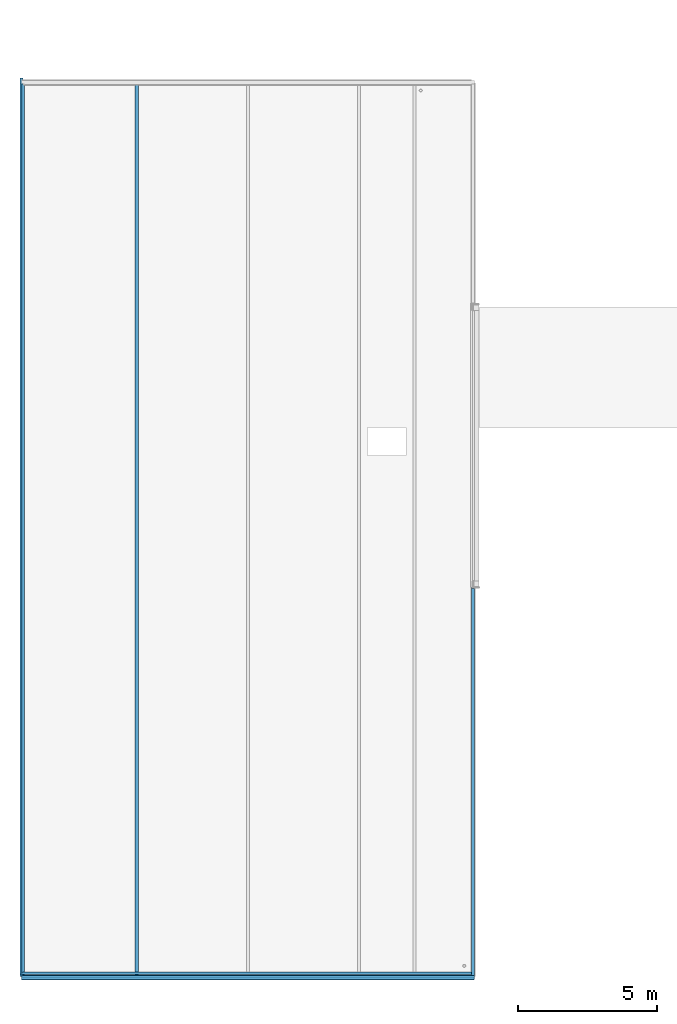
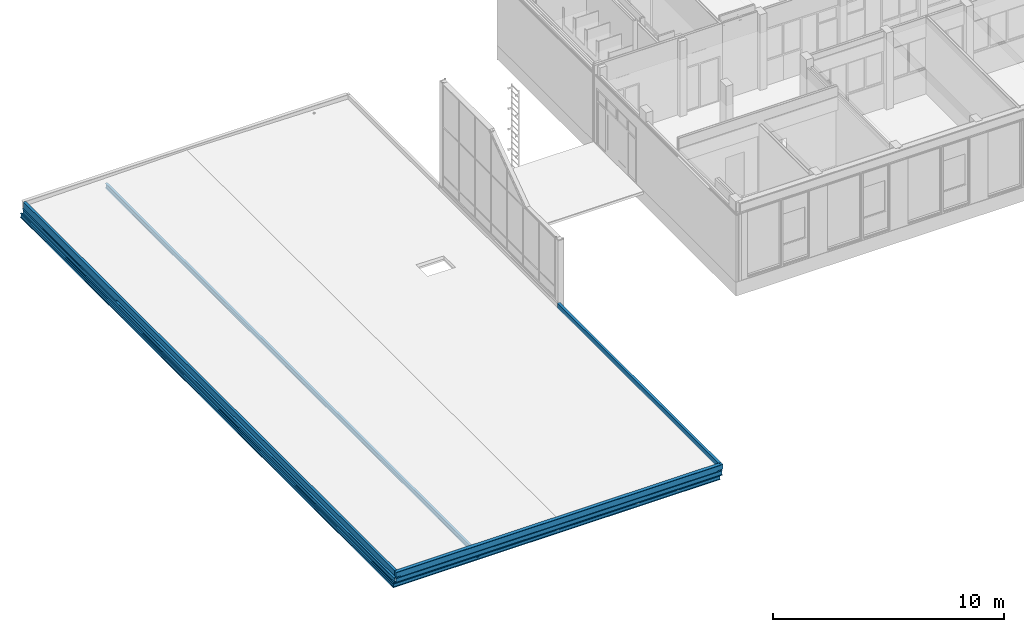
# One storey, part 6 of 54: 9 beams.
"""IFC2X3 building model written with IfcOpenShell, lengths in millimetres."""

import ifcopenshell
import ifcopenshell.guid

model = None  # the IFC model being written
_history = None  # IfcOwnerHistory: only IFC2X3 demands one
_inside = {}  # id of a spatial element -> (the spatial element, [elements in it])
_under = {}  # id of a project, library or spatial element -> (it, [spatial elements below it])
_declared = {}  # id of a project -> (the project, [libraries it declares])
_typed = {}  # id of a type object -> (the type object, [elements of that type])
_made_of = {}  # id of a material, layer set ... -> (it, [elements and type objects made of it])


def new_model(schema):
    """Start an empty IFC model of exactly this schema.

    Asked for "IFC4X3", IfcOpenShell would pick the latest addendum, in which some entities
    have other attributes; the version numbers below select the first issue.
    IFC2X3 requires an IfcOwnerHistory on every rooted entity: one is made here for all.
    """
    global model, _history
    if schema == "IFC4X3":
        model = ifcopenshell.file(schema_version=(4, 3, 0, 0))
    else:
        model = ifcopenshell.file(schema=schema)
    _inside.clear()
    _under.clear()
    _declared.clear()
    _typed.clear()
    _made_of.clear()
    _history = None
    if model.schema == "IFC2X3":
        org = make("IfcOrganization", Name="unknown")
        user = make(
            "IfcPersonAndOrganization",
            ThePerson=make("IfcPerson", FamilyName="unknown"),
            TheOrganization=org,
        )
        app = make(
            "IfcApplication",
            ApplicationDeveloper=org,
            Version="unknown",
            ApplicationFullName="unknown",
            ApplicationIdentifier="unknown",
        )
        _history = make(
            "IfcOwnerHistory",
            OwningUser=user,
            OwningApplication=app,
            ChangeAction="ADDED",
            CreationDate=0,
        )
    return model


def make(cls, **values):
    """One entity of the class cls with the attributes given. An attribute that is None is left unset."""
    return model.create_entity(
        cls, **{name: value for name, value in values.items() if value is not None}
    )


def entity(cls, *values):
    """Any entity or typed value of the class cls, its attributes in the order of the schema. None: left unset."""
    e = model.create_entity(cls)
    for i, value in enumerate(values):
        if value is not None:
            e[i] = value
    return e


def rooted(cls, **values):
    """An entity with a GlobalId (a new one), such as an element, a storey or a relation."""
    return make(cls, GlobalId=ifcopenshell.guid.new(), OwnerHistory=_history, **values)


def si_unit(unit_type, name, prefix=None):
    """IfcSIUnit, for example si_unit("LENGTHUNIT", "METRE", prefix="MILLI")."""
    return make("IfcSIUnit", UnitType=unit_type, Prefix=prefix, Name=name)


def converted_unit(unit_type, name, factor, base, dimensions=None, offset=None):
    """IfcConversionBasedUnit, such as the inch: factor (a typed value) times the base unit."""
    return make(
        "IfcConversionBasedUnit"
        if offset is None
        else "IfcConversionBasedUnitWithOffset",
        ConversionOffset=offset,
        Dimensions=None
        if dimensions is None
        else entity("IfcDimensionalExponents", *dimensions),
        UnitType=unit_type,
        Name=name,
        ConversionFactor=make(
            "IfcMeasureWithUnit", ValueComponent=factor, UnitComponent=base
        ),
    )


def derived_unit(unit_type, elements):
    """IfcDerivedUnit: a product of units, each with its exponent."""
    return make(
        "IfcDerivedUnit",
        Elements=[
            make("IfcDerivedUnitElement", Unit=unit, Exponent=power)
            for unit, power in elements
        ],
        UnitType=unit_type,
    )


def money_unit(currency):
    """IfcMonetaryUnit."""
    return make("IfcMonetaryUnit", Currency=currency)


def assignment(units):
    """IfcUnitAssignment: the units of a project."""
    return None if units is None else make("IfcUnitAssignment", Units=units)


def point(xyz):
    """IfcCartesianPoint."""
    return None if xyz is None else make("IfcCartesianPoint", Coordinates=xyz)


def direction(xyz):
    """IfcDirection."""
    return None if xyz is None else make("IfcDirection", DirectionRatios=xyz)


def frame(location, z_axis=None, x_axis=None):
    """IfcAxis2Placement3D, a coordinate frame: its origin and axes. An axis left out is left unset."""
    return make(
        "IfcAxis2Placement3D",
        Location=point(location),
        Axis=direction(z_axis),
        RefDirection=direction(x_axis),
    )


def origin_with_axes():
    """The frame at (0, 0, 0) with the z axis (0, 0, 1) and the x axis (1, 0, 0) written out."""
    return frame((0.0, 0.0, 0.0), z_axis=(0.0, 0.0, 1.0), x_axis=(1.0, 0.0, 0.0))


def place(relative_to, where):
    """IfcLocalPlacement: puts the frame where relative to a parent placement (None: the world)."""
    return make(
        "IfcLocalPlacement", PlacementRelTo=relative_to, RelativePlacement=where
    )


def context(
    kind, dimensions, precision=None, world=None, true_north=None, identifier=None
):
    """IfcGeometricRepresentationContext, for example the 3D "Model" context."""
    return make(
        "IfcGeometricRepresentationContext",
        ContextIdentifier=identifier,
        ContextType=kind,
        CoordinateSpaceDimension=dimensions,
        Precision=precision,
        WorldCoordinateSystem=world,
        TrueNorth=true_north,
    )


def subcontext(parent, identifier, kind, view, scale=None):
    """IfcGeometricRepresentationSubContext, for example "Body" below "Model"."""
    return make(
        "IfcGeometricRepresentationSubContext",
        ContextIdentifier=identifier,
        ContextType=kind,
        ParentContext=parent,
        TargetScale=scale,
        TargetView=view,
    )


def project(units=None, contexts=None):
    """IfcProject with its units and contexts."""
    return rooted(
        "IfcProject",
        Name="project",
        RepresentationContexts=contexts,
        UnitsInContext=assignment(units),
    )


def spatial(cls, under=None, at=None, **own):
    """A site, building, storey or space (cls), placed at a placement, below another one or the project."""
    s = rooted(cls, ObjectPlacement=at, **own)
    if under is not None:
        _under.setdefault(under.id(), (under, []))[1].append(s)
    return s


def faces_of(points, faces, orient=None, outer=None):
    """IfcFace entities. A face is a list of loops; a loop is a list of indices into points, from 0.

    orient and outer hold one flag for each loop. By default every Orientation is true, the
    first loop of a face is its IfcFaceOuterBound and the others are IfcFaceBound.
    """
    made = []
    for i, loops in enumerate(faces):
        bounds = []
        for j, loop in enumerate(loops):
            is_outer = j == 0 if outer is None else outer[i][j]
            bounds.append(
                make(
                    "IfcFaceOuterBound" if is_outer else "IfcFaceBound",
                    Bound=make("IfcPolyLoop", Polygon=[points[k] for k in loop]),
                    Orientation=True if orient is None else orient[i][j],
                )
            )
        made.append(make("IfcFace", Bounds=bounds))
    return made


def faceted_brep(points, faces, orient=None, outer=None, voids=None):
    """IfcFacetedBrep: a solid bounded by flat faces; with voids (closed shells), ...WithVoids."""
    shared = [point(p) for p in points]
    hull = make("IfcClosedShell", CfsFaces=faces_of(shared, faces, orient, outer))
    if voids is None:
        return make("IfcFacetedBrep", Outer=hull)
    return make(
        "IfcFacetedBrepWithVoids",
        Outer=hull,
        Voids=[
            make(cls, CfsFaces=faces_of(shared, fs, o, b)) for cls, fs, o, b in voids
        ],
    )


def shape(context_of_items, identifier, shape_type, items):
    """IfcShapeRepresentation: the items that make up one representation, for example the "Body"."""
    return make(
        "IfcShapeRepresentation",
        ContextOfItems=context_of_items,
        RepresentationIdentifier=identifier,
        RepresentationType=shape_type,
        Items=items,
    )


def material(Name=None, Category=None):
    """IfcMaterial."""
    return make("IfcMaterial", Name=Name, Category=Category)


def made_of(thing, what):
    """Note that an element or type object is made of a material, layer set ...; save() writes the relation."""
    if what is not None:
        _made_of.setdefault(what.id(), (what, []))[1].append(thing)
    return thing


def type_object(cls, material=None, **own):
    """A type object (cls), such as IfcWallType, which elements share."""
    return made_of(rooted(cls, **own), material)


def element(
    cls,
    number,
    at=None,
    inside=None,
    cuts=None,
    type_object=None,
    material=None,
    context=None,
    identifier="Body",
    shape_type=None,
    held_by="IfcProductDefinitionShape",
    body=None,
    shapes=None,
    **own,
):
    """One element of the class cls, such as IfcWall. Its Tag is "e" and its number.

    at: its placement. inside: the storey or other place that contains it. cuts: it is an
    opening in that element (IfcRelVoidsElement). A single representation is given by context,
    identifier, shape_type and body (its items); several are given by shapes. held_by: the class
    of the entity that holds the representations. save() writes the other relations.
    """
    e = rooted(cls, Tag="e%d" % number, ObjectPlacement=at, **own)
    if body is not None:
        shapes = [shape(context, identifier, shape_type, body)]
    if shapes is not None:
        e.Representation = make(held_by, Representations=shapes)
    if inside is not None:
        _inside.setdefault(inside.id(), (inside, []))[1].append(e)
    if cuts is not None:
        rooted(
            "IfcRelVoidsElement", RelatingBuildingElement=cuts, RelatedOpeningElement=e
        )
    if type_object is not None:
        _typed.setdefault(type_object.id(), (type_object, []))[1].append(e)
    return made_of(e, material)


def aggregate(whole, parts):
    """IfcRelAggregates: a whole, such as a stair, and the parts it consists of."""
    return rooted("IfcRelAggregates", RelatingObject=whole, RelatedObjects=parts)


def save(model, path):
    """Write the relations noted so far, then the file.

    IfcRelAggregates (storeys below a building ...), IfcRelContainedInSpatialStructure (elements
    in a storey), IfcRelDefinesByType, IfcRelAssociatesMaterial and IfcRelDeclares: one each for
    every whole, place, type object, material and project.
    """
    for whole, parts in _under.values():
        aggregate(whole, parts)
    for where, things in _inside.values():
        rooted(
            "IfcRelContainedInSpatialStructure",
            RelatedElements=things,
            RelatingStructure=where,
        )
    for kind, things in _typed.values():
        rooted("IfcRelDefinesByType", RelatedObjects=things, RelatingType=kind)
    for what, things in _made_of.values():
        rooted("IfcRelAssociatesMaterial", RelatedObjects=things, RelatingMaterial=what)
    for by, libraries in _declared.values():
        rooted("IfcRelDeclares", RelatingContext=by, RelatedDefinitions=libraries)
    model.write(path)


model = new_model("IFC2X3")

# Units and contexts
model_context = context("Model", 3, precision=0.01, world=origin_with_axes(), true_north=direction((0.0, 1.0)))
body_context = subcontext(model_context, "Body", "Model", "MODEL_VIEW")
ifc_project = project(units=[si_unit("LENGTHUNIT", "METRE", prefix="MILLI"), si_unit("AREAUNIT", "SQUARE_METRE"), si_unit("VOLUMEUNIT", "CUBIC_METRE"), converted_unit("PLANEANGLEUNIT", "DEGREE", entity("IfcPlaneAngleMeasure", 0.0174532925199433), si_unit("PLANEANGLEUNIT", "RADIAN"), dimensions=[0, 0, 0, 0, 0, 0, 0]), money_unit("EUR"), converted_unit("TIMEUNIT", "Year", entity("IfcTimeMeasure", 31557600.0), si_unit("TIMEUNIT", "SECOND"), dimensions=[0, 0, 1, 0, 0, 0, 0]), si_unit("MASSUNIT", "GRAM", prefix="KILO"), si_unit("THERMODYNAMICTEMPERATUREUNIT", "DEGREE_CELSIUS"), si_unit("LUMINOUSINTENSITYUNIT", "LUMEN"), si_unit("ENERGYUNIT", "JOULE", prefix="MEGA"), derived_unit("THERMALCONDUCTANCEUNIT", [(si_unit("POWERUNIT", "WATT"), 1), (si_unit("LENGTHUNIT", "METRE"), -1), (si_unit("THERMODYNAMICTEMPERATUREUNIT", "KELVIN"), -1)]), derived_unit("SPECIFICHEATCAPACITYUNIT", [(si_unit("ENERGYUNIT", "JOULE"), 1), (si_unit("MASSUNIT", "GRAM", prefix="KILO"), -1), (si_unit("THERMODYNAMICTEMPERATUREUNIT", "KELVIN"), -1)]), derived_unit("MASSDENSITYUNIT", [(si_unit("MASSUNIT", "GRAM", prefix="KILO"), 1), (si_unit("VOLUMEUNIT", "CUBIC_METRE"), -1)])], contexts=[model_context])

# Site, building, storey
site_placement = place(None, origin_with_axes())
site = spatial("IfcSite", under=ifc_project, at=site_placement, Name="<site naam>", CompositionType="ELEMENT")
building_placement = place(site_placement, origin_with_axes())
building = spatial("IfcBuilding", under=site, at=building_placement, Name="<Naam gebouw>", CompositionType="ELEMENT")
storey_placement = place(building_placement, frame((0.0, 0.0, 8500.0), z_axis=(0.0, 0.0, 1.0), x_axis=(1.0, 0.0, 0.0)))
storey = spatial("IfcBuildingStorey", under=building, at=storey_placement, Name="02 2e verdieping", CompositionType="ELEMENT", Elevation=8500.0)

# Beams
ifc_material_1 = material(Name="staal C")
beam_type_1 = type_object("IfcBeamType", Name="Profiel IPN algemeen 113 x 260", PredefinedType="BEAM")
beam_1_placement = place(storey_placement, frame((-12145.00097039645, -12082.49008809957, -79.99999923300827), z_axis=(0.0, 0.0, 1.0), x_axis=(1.0, 0.0, 0.0)))
element("IfcBeam", 1, at=beam_1_placement, inside=storey, type_object=beam_type_1, material=ifc_material_1, Name="28_Balk_Profiel", ObjectType="BEAM", context=body_context, shape_type="Brep", body=[
    faceted_brep([(-56.5003578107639, 0.0, 0.0), (-56.5003578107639, 32164.99008809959, 0.0), (-56.50031822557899, 32164.99008809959, -14.09999999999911), (-56.50031822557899, 0.0, -14.09999999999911), (56.5003578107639, 0.0, 0.0), (56.5003578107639, 32164.99008809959, 0.0), (56.50031822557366, 32164.99008809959, -14.09999999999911), (4.699999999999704, 32164.99008809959, -14.09999999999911), (4.699999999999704, 32164.99008809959, -245.9003093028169), (56.50031822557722, 32164.99008809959, -245.9003093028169), (56.5003578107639, 32164.99008809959, -260.0003415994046), (-56.5003578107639, 32164.99008809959, -260.0003415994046), (-56.50031822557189, 32164.99008809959, -245.9003093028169), (-4.699999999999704, 32164.99008809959, -245.9003093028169), (-4.699999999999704, 32164.99008809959, -14.09999999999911), (-4.699999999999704, 0.0, -14.09999999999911), (-4.699999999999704, 0.0, -245.9003093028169), (-56.50031822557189, 0.0, -245.9003093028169), (-56.5003578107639, 0.0, -260.0003415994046), (56.5003578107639, 0.0, -260.0003415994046), (56.50031822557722, 0.0, -245.9003093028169), (4.699999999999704, 0.0, -245.9003093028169), (4.699999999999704, 0.0, -14.09999999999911), (56.50031822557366, 0.0, -14.09999999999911)], [[[0, 1, 2, 3]], [[4, 5, 1, 0]], [[2, 1, 5, 6, 7, 8, 9, 10, 11, 12, 13, 14]], [[3, 2, 14, 15]], [[4, 0, 3, 15, 16, 17, 18, 19, 20, 21, 22, 23]], [[23, 6, 5, 4]], [[22, 7, 6, 23]], [[21, 8, 7, 22]], [[20, 9, 8, 21]], [[19, 10, 9, 20]], [[18, 11, 10, 19]], [[17, 12, 11, 18]], [[16, 13, 12, 17]], [[15, 14, 13, 16]]]),
])
beam_2_placement = place(storey_placement, frame((-7999.999803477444, -12082.49008809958, -179.9999992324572), z_axis=(0.0, 0.0, 1.0), x_axis=(1.0, 0.0, 0.0)))
element("IfcBeam", 2, at=beam_2_placement, inside=storey, type_object=beam_type_1, material=ifc_material_1, Name="28_Balk_Profiel", ObjectType="BEAM", context=body_context, shape_type="Brep", body=[
    faceted_brep([(-56.50019946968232, 0.0, -14.09999999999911), (-56.50023905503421, 0.0, 0.0), (-56.50023905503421, 32164.99008809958, 0.0), (-56.50019946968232, 32164.99008809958, -14.09999999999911), (56.50019946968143, 0.0, -14.09999999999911), (56.50023905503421, 0.0, 0.0), (-4.699999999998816, 0.0, -14.09999999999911), (-4.699999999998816, 0.0, -245.9002124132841), (-56.50019946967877, 0.0, -245.9002124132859), (-56.50023905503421, 0.0, -260.0002447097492), (56.50023905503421, 0.0, -260.0002447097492), (56.50019946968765, 0.0, -245.9002124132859), (4.699999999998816, 0.0, -245.9002124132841), (4.699999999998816, 0.0, -14.09999999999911), (56.50023905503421, 32164.99008809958, 0.0), (-4.699999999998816, 32164.99008809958, -14.09999999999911), (56.50019946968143, 32164.99008809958, -14.09999999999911), (4.699999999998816, 32164.99008809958, -14.09999999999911), (4.699999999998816, 32164.99008809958, -245.9002124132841), (56.50019946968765, 32164.99008809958, -245.9002124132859), (56.50023905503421, 32164.99008809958, -260.0002447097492), (-56.50023905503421, 32164.99008809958, -260.0002447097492), (-56.50019946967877, 32164.99008809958, -245.9002124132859), (-4.699999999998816, 32164.99008809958, -245.9002124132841)], [[[0, 1, 2, 3]], [[4, 5, 1, 0, 6, 7, 8, 9, 10, 11, 12, 13]], [[1, 5, 14, 2]], [[15, 3, 2, 14, 16, 17, 18, 19, 20, 21, 22, 23]], [[6, 0, 3, 15]], [[5, 4, 16, 14]], [[7, 6, 15, 23]], [[8, 7, 23, 22]], [[9, 8, 22, 21]], [[10, 9, 21, 20]], [[11, 10, 20, 19]], [[12, 11, 19, 18]], [[13, 12, 18, 17]], [[4, 13, 17, 16]]]),
])
beam_3_placement = place(storey_placement, frame((-12145.00097039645, -12147.03280825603, -39.99999923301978), z_axis=(0.0, 0.0, 1.0), x_axis=(0.0, -1.0, 0.0)))
element("IfcBeam", 3, at=beam_3_placement, inside=storey, type_object=beam_type_1, material=ifc_material_1, Name="28_Balk_Profiel", ObjectType="BEAM", context=body_context, shape_type="Brep", body=[
    faceted_brep([(-56.50035804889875, 0.0, 0.0), (-56.50035804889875, 16290.00105463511, 0.0), (-56.50031846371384, 16290.00105463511, -14.09999999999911), (-56.50031846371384, 0.0, -14.09999999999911), (56.50035804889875, 0.0, 0.0), (56.50035804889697, 16290.00105463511, 0.0), (56.50031846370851, 16290.00105463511, -14.09999999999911), (4.699999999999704, 16290.00105463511, -14.09999999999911), (4.699999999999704, 16290.00105463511, -245.9003093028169), (56.50031846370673, 16290.00105463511, -245.9003093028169), (56.50035804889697, 16290.00105463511, -260.0003415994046), (-56.50035804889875, 16290.00105463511, -260.0003415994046), (-56.50031846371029, 16290.00105463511, -245.9003093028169), (-4.700000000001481, 16290.00105463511, -245.9003093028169), (-4.700000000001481, 16290.00105463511, -14.09999999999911), (-4.699999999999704, 0.0, -14.09999999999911), (-4.699999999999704, 0.0, -245.9003093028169), (-56.50031846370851, 0.0, -245.9003093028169), (-56.50035804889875, 0.0, -260.0003415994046), (56.50035804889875, 0.0, -260.0003415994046), (56.50031846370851, 0.0, -245.9003093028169), (4.699999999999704, 0.0, -245.9003093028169), (4.699999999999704, 0.0, -14.09999999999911), (56.50031846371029, 0.0, -14.09999999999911)], [[[0, 1, 2, 3]], [[4, 5, 1, 0]], [[2, 1, 5, 6, 7, 8, 9, 10, 11, 12, 13, 14]], [[3, 2, 14, 15]], [[4, 0, 3, 15, 16, 17, 18, 19, 20, 21, 22, 23]], [[23, 6, 5, 4]], [[22, 7, 6, 23]], [[21, 8, 7, 22]], [[20, 9, 8, 21]], [[19, 10, 9, 20]], [[18, 11, 10, 19]], [[17, 12, 11, 18]], [[16, 13, 12, 17]], [[15, 14, 13, 16]]]),
])
beam_type_2 = type_object("IfcBeamType", Name="Profiel IPN algemeen 100 x 200", PredefinedType="BEAM")
beam_4_placement = place(storey_placement, frame((-12145.00097039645, -11967.52986715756, -440.0000433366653), z_axis=(0.0, 0.0, 1.0), x_axis=(0.0, -1.0, 0.0)))
element("IfcBeam", 4, at=beam_4_placement, inside=storey, type_object=beam_type_2, material=ifc_material_1, Name="28_Balk_Profiel", ObjectType="BEAM", context=body_context, shape_type="Brep", body=[
    faceted_brep([(2.800034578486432, 4158.525044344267, -191.5003203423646), (2.800034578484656, 213.5758412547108, -191.5003203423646), (39.97013036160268, 213.5758410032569, -191.5003203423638), (39.97013036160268, 261.0758411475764, -191.5003203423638), (47.97013284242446, 261.0758410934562, -191.5003203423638), (47.97013284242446, 161.0758409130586, -191.5003203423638), (39.97013036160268, 161.0758408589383, -191.5003203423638), (39.97013036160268, 208.5758410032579, -191.5003203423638), (2.800034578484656, 208.5758407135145, -191.5003203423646), (2.800034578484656, -2.800034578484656, -191.5003203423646), (50.00027387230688, -50.00027387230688, -191.5003203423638), (50.0002738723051, 16290.00105463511, -191.5003203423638), (2.800034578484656, 16290.00105463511, -191.5003203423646), (2.800034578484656, 16097.54543865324, -191.5003203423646), (40.97012794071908, 16097.54543839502, -191.5003203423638), (40.97012794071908, 16145.04543853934, -191.5003203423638), (48.97013042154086, 16145.04543848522, -191.5003203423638), (48.97013042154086, 16045.04543830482, -191.5003203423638), (40.97012794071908, 16045.0454382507, -191.5003203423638), (40.97012794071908, 16092.54543839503, -191.5003203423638), (2.800034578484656, 16092.54543811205, -191.5003203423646), (2.800034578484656, 12147.50097064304, -191.5003203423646), (40.97012794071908, 12147.50097038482, -191.5003203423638), (40.97012794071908, 12195.00097052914, -191.5003203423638), (48.97013042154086, 12195.00097047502, -191.5003203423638), (48.97013042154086, 12095.00097029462, -191.5003203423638), (40.97012794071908, 12095.0009702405, -191.5003203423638), (40.97012794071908, 12142.50097038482, -191.5003203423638), (2.800034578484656, 12142.50097010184, -191.5003203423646), (2.800034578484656, 8147.500970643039, -191.5003203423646), (40.97012794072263, 8147.500970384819, -191.5003203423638), (40.97012794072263, 8195.000970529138, -191.5003203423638), (48.97013042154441, 8195.000970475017, -191.5003203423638), (48.97013042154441, 8095.000970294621, -191.5003203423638), (40.97012794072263, 8095.0009702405, -191.5003203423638), (40.97012794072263, 8142.50097038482, -191.5003203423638), (2.800034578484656, 8142.500970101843, -191.5003203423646), (2.800034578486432, 4163.525044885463, -191.5003203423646), (40.97547550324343, 4163.525044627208, -191.5003203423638), (40.97547550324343, 4211.025044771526, -191.5003203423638), (48.97547798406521, 4211.025044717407, -191.5003203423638), (48.97547798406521, 4111.025044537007, -191.5003203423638), (40.97547550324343, 4111.025044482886, -191.5003203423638), (40.97547550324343, 4158.525044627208, -191.5003203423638), (2.800034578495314, 208.5758410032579, -20.00020268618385), (2.800034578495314, 213.5758410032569, -20.00020268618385), (2.80003457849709, 4158.525044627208, -20.00020268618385), (2.80003457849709, 4163.525044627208, -20.00020268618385), (2.800034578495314, 8142.50097038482, -20.00020268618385), (2.800034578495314, 8147.500970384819, -20.00020268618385), (2.800034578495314, 12142.50097038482, -20.00020268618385), (2.800034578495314, 12147.50097038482, -20.00020268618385), (2.800034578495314, 16092.54543839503, -20.00020268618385), (2.800034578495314, 16097.54543839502, -20.00020268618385), (2.800034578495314, 16290.00105463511, -8.500157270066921), (2.800034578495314, -2.800034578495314, -8.500157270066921), (-2.80003457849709, 213.5758410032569, -20.00020268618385), (-2.800034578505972, 213.5758412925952, -191.5003203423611), (-40.02986558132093, 213.5758410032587, -191.5003203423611), (-40.02986558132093, 213.5758410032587, -200.0006782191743), (39.97013036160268, 213.5758410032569, -200.0006782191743), (39.97013036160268, 261.0758411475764, -200.0006782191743), (47.97013284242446, 261.0758410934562, -200.0006782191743), (47.97013284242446, 161.0758409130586, -200.0006782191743), (39.97013036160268, 161.0758408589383, -200.0006782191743), (39.97013036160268, 208.5758410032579, -200.0006782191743), (-40.02986558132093, 208.5758410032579, -200.0006782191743), (-40.02986558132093, 208.5758410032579, -191.5003203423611), (-2.800034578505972, 208.5758407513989, -191.5003203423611), (-2.80003457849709, 208.5758410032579, -20.00020268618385), (50.00027387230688, -50.00027387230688, -8.500157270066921), (50.00044102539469, -50.00044102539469, 0.0), (-50.00044102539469, 50.00044102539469, 0.0), (-50.0002738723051, 50.0002738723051, -8.500157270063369), (-2.800034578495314, 2.800034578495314, -8.500157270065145), (-2.800034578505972, 2.800034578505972, -191.5003203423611), (-50.0002738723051, 50.0002738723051, -191.5003203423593), (-50.00044102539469, 50.00044102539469, -200.0006782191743), (50.00044102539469, -50.00044102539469, -200.0006782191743), (50.00044102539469, 16290.00105463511, -200.0006782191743), (-2.80003457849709, 16290.00105463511, -8.500157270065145), (-50.00027387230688, 16290.00105463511, -8.500157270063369), (-50.00044102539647, 16290.00105463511, 0.0), (50.00044102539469, 16290.00105463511, 0.0), (50.0002738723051, 16290.00105463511, -8.500157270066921), (-50.00044102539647, 16290.00105463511, -200.0006782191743), (-50.00027387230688, 16290.00105463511, -191.5003203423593), (-2.800034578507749, 16290.00105463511, -191.5003203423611), (-2.80003457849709, 16097.54543839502, -20.00020268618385), (-2.800034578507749, 16097.54543869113, -191.5003203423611), (-39.02986800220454, 16097.54543839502, -191.5003203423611), (-39.02986800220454, 16097.54543839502, -200.0006782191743), (40.97012794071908, 16097.54543839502, -200.0006782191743), (40.97012794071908, 16145.04543853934, -200.0006782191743), (48.97013042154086, 16145.04543848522, -200.0006782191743), (48.97013042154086, 16045.04543830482, -200.0006782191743), (40.97012794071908, 16045.0454382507, -200.0006782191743), (40.97012794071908, 16092.54543839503, -200.0006782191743), (-39.02986800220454, 16092.54543839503, -200.0006782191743), (-39.02986800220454, 16092.54543839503, -191.5003203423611), (-2.800034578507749, 16092.54543814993, -191.5003203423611), (-2.80003457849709, 16092.54543839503, -20.00020268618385), (-2.80003457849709, 12147.50097038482, -20.00020268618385), (-2.800034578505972, 12147.50097068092, -191.5003203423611), (-39.02986800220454, 12147.50097038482, -191.5003203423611), (-39.02986800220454, 12147.50097038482, -200.0006782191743), (40.97012794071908, 12147.50097038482, -200.0006782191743), (40.97012794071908, 12195.00097052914, -200.0006782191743), (48.97013042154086, 12195.00097047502, -200.0006782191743), (48.97013042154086, 12095.00097029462, -200.0006782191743), (40.97012794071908, 12095.0009702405, -200.0006782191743), (40.97012794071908, 12142.50097038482, -200.0006782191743), (-39.02986800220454, 12142.50097038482, -200.0006782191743), (-39.02986800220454, 12142.50097038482, -191.5003203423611), (-2.800034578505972, 12142.50097013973, -191.5003203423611), (-2.80003457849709, 12142.50097038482, -20.00020268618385), (-2.80003457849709, 8147.500970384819, -20.00020268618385), (-2.800034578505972, 8147.500970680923, -191.5003203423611), (-39.02986800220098, 8147.500970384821, -191.5003203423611), (-39.02986800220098, 8147.500970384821, -200.0006782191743), (40.97012794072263, 8147.500970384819, -200.0006782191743), (40.97012794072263, 8195.000970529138, -200.0006782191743), (48.97013042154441, 8195.000970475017, -200.0006782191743), (48.97013042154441, 8095.000970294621, -200.0006782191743), (40.97012794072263, 8095.0009702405, -200.0006782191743), (40.97012794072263, 8142.50097038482, -200.0006782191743), (-39.02986800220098, 8142.50097038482, -200.0006782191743), (-39.02986800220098, 8142.50097038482, -191.5003203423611), (-2.800034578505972, 8142.500970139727, -191.5003203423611), (-2.80003457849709, 8142.50097038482, -20.00020268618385), (-2.800034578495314, 4163.525044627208, -20.00020268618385), (-2.800034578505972, 4163.525044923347, -191.5003203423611), (-39.02452043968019, 4163.525044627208, -191.5003203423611), (-39.02452043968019, 4163.525044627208, -200.0006782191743), (40.97547550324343, 4163.525044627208, -200.0006782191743), (40.97547550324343, 4211.025044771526, -200.0006782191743), (48.97547798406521, 4211.025044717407, -200.0006782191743), (48.97547798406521, 4111.025044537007, -200.0006782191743), (40.97547550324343, 4111.025044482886, -200.0006782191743), (40.97547550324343, 4158.525044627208, -200.0006782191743), (-39.02452043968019, 4158.525044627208, -200.0006782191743), (-39.02452043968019, 4158.525044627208, -191.5003203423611), (-2.800034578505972, 4158.525044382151, -191.5003203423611), (-2.800034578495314, 4158.525044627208, -20.00020268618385), (-40.02986558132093, 161.0758408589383, -191.5003203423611), (-48.02986806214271, 161.0758409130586, -191.5003203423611), (-48.02986806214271, 261.0758410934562, -191.5003203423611), (-40.02986558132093, 261.0758411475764, -191.5003203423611), (-39.02452043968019, 4111.025044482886, -191.5003203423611), (-47.02452292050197, 4111.025044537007, -191.5003203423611), (-47.02452292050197, 4211.025044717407, -191.5003203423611), (-39.02452043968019, 4211.025044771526, -191.5003203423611), (-39.02986800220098, 8095.0009702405, -191.5003203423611), (-47.02987048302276, 8095.000970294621, -191.5003203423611), (-47.02987048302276, 8195.000970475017, -191.5003203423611), (-39.02986800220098, 8195.000970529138, -191.5003203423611), (-39.02986800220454, 12095.0009702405, -191.5003203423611), (-47.02987048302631, 12095.00097029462, -191.5003203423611), (-47.02987048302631, 12195.00097047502, -191.5003203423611), (-39.02986800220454, 12195.00097052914, -191.5003203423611), (-39.02986800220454, 16045.0454382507, -191.5003203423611), (-47.02987048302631, 16045.04543830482, -191.5003203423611), (-47.02987048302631, 16145.04543848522, -191.5003203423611), (-39.02986800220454, 16145.04543853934, -191.5003203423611), (-40.02986558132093, 261.0758411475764, -200.0006782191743), (-39.02986800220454, 16145.04543853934, -200.0006782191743), (-47.02987048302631, 16145.04543848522, -200.0006782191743), (-47.02987048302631, 16045.04543830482, -200.0006782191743), (-39.02986800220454, 16045.0454382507, -200.0006782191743), (-39.02986800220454, 12195.00097052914, -200.0006782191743), (-47.02987048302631, 12195.00097047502, -200.0006782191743), (-47.02987048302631, 12095.00097029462, -200.0006782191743), (-39.02986800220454, 12095.0009702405, -200.0006782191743), (-39.02986800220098, 8195.000970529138, -200.0006782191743), (-47.02987048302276, 8195.000970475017, -200.0006782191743), (-47.02987048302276, 8095.000970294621, -200.0006782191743), (-39.02986800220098, 8095.0009702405, -200.0006782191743), (-39.02452043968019, 4211.025044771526, -200.0006782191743), (-47.02452292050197, 4211.025044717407, -200.0006782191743), (-47.02452292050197, 4111.025044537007, -200.0006782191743), (-39.02452043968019, 4111.025044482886, -200.0006782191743), (-48.02986806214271, 261.0758410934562, -200.0006782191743), (-48.02986806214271, 161.0758409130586, -200.0006782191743), (-40.02986558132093, 161.0758408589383, -200.0006782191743)], [[[0, 1, 2, 3, 4, 5, 6, 7, 8, 9, 10, 11, 12, 13, 14, 15, 16, 17, 18, 19, 20, 21, 22, 23, 24, 25, 26, 27, 28, 29, 30, 31, 32, 33, 34, 35, 36, 37, 38, 39, 40, 41, 42, 43]], [[44, 45, 1, 0, 46, 47, 37, 36, 48, 49, 29, 28, 50, 51, 21, 20, 52, 53, 13, 12, 54, 55, 9, 8]], [[56, 57, 58, 59, 60, 2, 1, 45]], [[61, 3, 2, 60]], [[62, 4, 3, 61]], [[63, 5, 4, 62]], [[64, 6, 5, 63]], [[65, 7, 6, 64]], [[66, 67, 68, 69, 44, 8, 7, 65]], [[70, 71, 72, 73, 74, 75, 76, 77, 78, 10, 9, 55]], [[10, 78, 79, 11]], [[80, 81, 82, 83, 84, 54, 12, 11, 79, 85, 86, 87]], [[88, 89, 90, 91, 92, 14, 13, 53]], [[93, 15, 14, 92]], [[94, 16, 15, 93]], [[95, 17, 16, 94]], [[96, 18, 17, 95]], [[97, 19, 18, 96]], [[98, 99, 100, 101, 52, 20, 19, 97]], [[102, 103, 104, 105, 106, 22, 21, 51]], [[107, 23, 22, 106]], [[108, 24, 23, 107]], [[109, 25, 24, 108]], [[110, 26, 25, 109]], [[111, 27, 26, 110]], [[112, 113, 114, 115, 50, 28, 27, 111]], [[116, 117, 118, 119, 120, 30, 29, 49]], [[121, 31, 30, 120]], [[122, 32, 31, 121]], [[123, 33, 32, 122]], [[124, 34, 33, 123]], [[125, 35, 34, 124]], [[126, 127, 128, 129, 48, 36, 35, 125]], [[130, 131, 132, 133, 134, 38, 37, 47]], [[135, 39, 38, 134]], [[136, 40, 39, 135]], [[137, 41, 40, 136]], [[138, 42, 41, 137]], [[139, 43, 42, 138]], [[140, 141, 142, 143, 46, 0, 43, 139]], [[44, 69, 56, 45]], [[46, 143, 130, 47]], [[48, 129, 116, 49]], [[50, 115, 102, 51]], [[52, 101, 88, 53]], [[70, 55, 54, 84]], [[56, 69, 68, 75, 74, 80, 87, 89, 88, 101, 100, 103, 102, 115, 114, 117, 116, 129, 128, 131, 130, 143, 142, 57]], [[67, 144, 145, 146, 147, 58, 57, 142, 141, 148, 149, 150, 151, 132, 131, 128, 127, 152, 153, 154, 155, 118, 117, 114, 113, 156, 157, 158, 159, 104, 103, 100, 99, 160, 161, 162, 163, 90, 89, 87, 86, 76, 75, 68]], [[59, 58, 147, 164]], [[78, 77, 85, 79], [92, 91, 165, 166, 167, 168, 98, 97, 96, 95, 94, 93], [106, 105, 169, 170, 171, 172, 112, 111, 110, 109, 108, 107], [120, 119, 173, 174, 175, 176, 126, 125, 124, 123, 122, 121], [134, 133, 177, 178, 179, 180, 140, 139, 138, 137, 136, 135], [60, 59, 164, 181, 182, 183, 66, 65, 64, 63, 62, 61]], [[183, 144, 67, 66]], [[71, 70, 84, 83]], [[72, 71, 83, 82]], [[73, 72, 82, 81]], [[74, 73, 81, 80]], [[77, 76, 86, 85]], [[91, 90, 163, 165]], [[168, 160, 99, 98]], [[105, 104, 159, 169]], [[172, 156, 113, 112]], [[119, 118, 155, 173]], [[176, 152, 127, 126]], [[133, 132, 151, 177]], [[180, 148, 141, 140]], [[182, 145, 144, 183]], [[181, 146, 145, 182]], [[164, 147, 146, 181]], [[179, 149, 148, 180]], [[178, 150, 149, 179]], [[177, 151, 150, 178]], [[175, 153, 152, 176]], [[174, 154, 153, 175]], [[173, 155, 154, 174]], [[171, 157, 156, 172]], [[170, 158, 157, 171]], [[169, 159, 158, 170]], [[167, 161, 160, 168]], [[166, 162, 161, 167]], [[165, 163, 162, 166]]]),
])
beam_5_placement = place(storey_placement, frame((-12145.00097039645, -11967.52986715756, -440.0000433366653), z_axis=(0.0, 0.0, 1.0), x_axis=(1.0, 0.0, 0.0)))
element("IfcBeam", 5, at=beam_5_placement, inside=storey, type_object=beam_type_2, material=ifc_material_1, Name="28_Balk_Profiel", ObjectType="BEAM", context=body_context, shape_type="Brep", body=[
    faceted_brep([(-50.00044102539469, -50.00044102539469, 0.0), (-50.00044102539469, 32232.52986715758, 0.0), (-50.0002738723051, 32232.52986715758, -8.500157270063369), (-50.0002738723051, -50.0002738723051, -8.500157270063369), (50.00044102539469, 50.00044102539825, 0.0), (50.00044102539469, 32232.52986715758, 0.0), (50.00027387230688, 32232.52986715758, -8.500157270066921), (2.800034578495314, 32232.52986715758, -8.500157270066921), (2.800034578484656, 32232.52986715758, -191.5003203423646), (50.00027387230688, 32232.52986715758, -191.5003203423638), (50.00044102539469, 32232.52986715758, -200.0006782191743), (-50.00044102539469, 32232.52986715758, -200.0006782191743), (-50.0002738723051, 32232.52986715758, -191.5003203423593), (-2.800034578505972, 32232.52986715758, -191.5003203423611), (-2.800034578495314, 32232.52986715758, -8.500157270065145), (-2.800034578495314, -2.800034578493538, -8.500157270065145), (-2.800034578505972, -2.800034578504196, -191.5003203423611), (-50.0002738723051, -50.0002738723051, -191.5003203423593), (-50.00044102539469, -50.00044102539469, -200.0006782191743), (50.00044102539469, 50.00044102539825, -200.0006782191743), (50.00027387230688, 50.00027387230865, -191.5003203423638), (2.800034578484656, 2.800034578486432, -191.5003203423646), (2.800034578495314, 2.800034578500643, -8.500157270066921), (50.00027387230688, 50.00027387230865, -8.500157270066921)], [[[0, 1, 2, 3]], [[4, 5, 1, 0]], [[2, 1, 5, 6, 7, 8, 9, 10, 11, 12, 13, 14]], [[3, 2, 14, 15]], [[4, 0, 3, 15, 16, 17, 18, 19, 20, 21, 22, 23]], [[23, 6, 5, 4]], [[22, 7, 6, 23]], [[21, 8, 7, 22]], [[20, 9, 8, 21]], [[19, 10, 9, 20]], [[18, 11, 10, 19]], [[17, 12, 11, 18]], [[16, 13, 12, 17]], [[15, 14, 13, 16]]]),
])
ifc_material_2 = material(Name="ALG - BUITENAFWERKING")
beam_type_3 = type_object("IfcBeamType", Name="ALG - BUITENAFWERKING 175 x 18", PredefinedType="BEAM")
beam_6_placement = place(storey_placement, frame((-12034.99362748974, -12031.77429586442, 262.0700278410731), z_axis=(0.0, 0.0, 1.0), x_axis=(0.0, -1.0, 0.0)))
element("IfcBeam", 6, at=beam_6_placement, inside=storey, type_object=beam_type_3, material=ifc_material_2, Name="47_Balk_ALG", ObjectType="BEAM", context=body_context, shape_type="Brep", body=[
    faceted_brep([(0.0, 0.0, 17.99752207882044), (0.0, 16080.03946249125, 17.99765817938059), (0.0, 16080.03946249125, 0.0), (0.0, 0.0, 0.0), (175.2598182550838, 16080.03946249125, 17.99765817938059), (13.21715666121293, 0.0, 17.99752207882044), (13.21715666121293, -119.9999999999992, 17.99752207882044), (175.2598182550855, -119.9999999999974, 17.99765817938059), (175.2598182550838, 16080.03946249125, 0.0), (175.2598182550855, -119.9999999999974, 0.0), (13.21715666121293, -119.9999999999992, 0.0), (13.21715666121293, 0.0, 0.0)], [[[0, 1, 2, 3]], [[4, 1, 0, 5, 6, 7]], [[1, 4, 8, 2]], [[8, 9, 10, 11, 3, 2]], [[0, 3, 11, 5]], [[5, 11, 10, 6]], [[10, 9, 7, 6]], [[9, 8, 4, 7]]]),
])
beam_type_4 = type_object("IfcBeamType", Name="ALG - BUITENAFWERKING 145 x 332", PredefinedType="BEAM")
beam_7_placement = place(storey_placement, frame((-12034.99362748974, -12037.02590334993, -69.99542929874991), z_axis=(0.0, 0.0, 1.0), x_axis=(0.0, -1.0, 0.0)))
element("IfcBeam", 7, at=beam_7_placement, inside=storey, type_object=beam_type_4, material=ifc_material_2, Name="47_Balk_ALG", ObjectType="BEAM", context=body_context, shape_type="Brep", body=[
    faceted_brep([(0.0, 128.9936274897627, -3.666603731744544e-05), (0.0, 128.9936274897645, 69.99542828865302), (0.0, 0.0, 69.99542929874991), (0.0, 0.0, 332.0654611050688), (0.0, 16200.03946249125, 332.0654611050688), (0.0, 16200.03946249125, 329.9954292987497), (0.0, 16080.03946249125, 329.9954292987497), (0.0, 16080.03946249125, 69.99542929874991), (0.0, 15941.038066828, 69.99542929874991), (0.0, 15941.038066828, -0.004531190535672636), (144.999926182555, 128.9936274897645, 69.99542828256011), (144.9999261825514, 128.9936274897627, 0.0), (7.965549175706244, 0.0, 69.99542929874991), (144.9999261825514, -119.9999999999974, 69.99542929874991), (7.965549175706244, -119.9999999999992, 69.99542929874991), (7.965549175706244, 0.0, 332.0654611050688), (144.9999261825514, -119.9999999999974, 332.0654611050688), (144.9999261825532, 16200.03946249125, 332.0654611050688), (7.965549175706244, -119.9999999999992, 332.0654611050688), (144.9999261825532, 16200.03946249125, 69.99542929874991), (7.965549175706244, 16200.03946249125, 69.99542929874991), (7.965549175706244, 16200.03946249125, 329.9954292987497), (7.965549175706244, 16080.03946249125, 329.9954292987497), (7.965549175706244, 16080.03946249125, 69.99542929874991), (144.9999261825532, 15941.038066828, 69.99542929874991), (144.9999261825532, 15941.038066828, 0.0)], [[[0, 1, 2, 3, 4, 5, 6, 7, 8, 9]], [[10, 1, 0, 11]], [[12, 2, 1, 10, 13, 14]], [[3, 2, 12, 15]], [[16, 17, 4, 3, 15, 18]], [[17, 19, 20, 21, 5, 4]], [[5, 21, 22, 6]], [[22, 23, 7, 6]], [[7, 23, 20, 19, 24, 8]], [[25, 9, 8, 24]], [[25, 11, 0, 9]], [[13, 10, 11, 25, 24, 19, 17, 16]], [[18, 14, 13, 16]], [[15, 12, 14, 18]], [[21, 20, 23, 22]]]),
])
beam_type_5 = type_object("IfcBeamType", Name="ALG - BUITENAFWERKING 120 x 330", PredefinedType="BEAM")
beam_8_placement = place(storey_placement, frame((4045.045835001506, -12044.99145252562, -70.00000000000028), z_axis=(0.0, 0.0, 1.0), x_axis=(1.0, 0.0, 0.0)))
element("IfcBeam", 8, at=beam_8_placement, inside=storey, type_object=beam_type_5, material=ifc_material_2, Name="47_Balk_ALG", ObjectType="BEAM", context=body_context, shape_type="Brep", body=[
    faceted_brep([(120.0000000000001, 0.0, 70.00000000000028), (119.9999999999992, 13940.01091744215, 70.00000000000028), (119.9999999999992, 13940.01091744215, 330.0000000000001), (120.0000000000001, 0.0, 330.0000000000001), (26.47881524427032, 13975.01091751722, 70.00000000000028), (26.47881524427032, 13940.01091744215, 70.00000000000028), (0.0, 0.0, 70.00000000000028), (0.0, 13975.01091751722, 70.00000000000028), (26.47881524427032, 13940.01091744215, 330.0000000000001), (26.47881524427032, 13975.01091751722, 330.0000000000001), (0.0, 13975.01091751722, 330.0000000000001), (0.0, 0.0, 330.0000000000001)], [[[0, 1, 2, 3]], [[4, 5, 1, 0, 6, 7]], [[5, 8, 2, 1]], [[3, 2, 8, 9, 10, 11]], [[3, 11, 6, 0]], [[9, 8, 5, 4]], [[11, 10, 7, 6]], [[10, 9, 4, 7]]]),
    faceted_brep([(119.9999999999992, 13941.01092274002, 70.00000000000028), (119.9999999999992, 13960.5109184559, 70.00000000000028), (119.9999999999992, 13960.5109184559, 330.0000000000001), (119.9999999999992, 13941.01092274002, 330.0000000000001), (46.97880813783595, 13975.01091751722, 70.00000000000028), (46.97880813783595, 13960.5109184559, 70.00000000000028), (27.47881648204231, 13941.01092274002, 70.00000000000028), (27.4319020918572, 13940.96400834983, 70.00000000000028), (27.4319048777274, 13975.01091751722, 70.00000000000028), (46.97880813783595, 13960.5109184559, 330.0000000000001), (46.97880813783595, 13975.01091751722, 330.0000000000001), (27.4319041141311, 13975.01091751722, 330.0000000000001), (27.4319020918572, 13940.96400834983, 330.0000000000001), (27.47881648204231, 13941.01092274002, 330.0000000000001)], [[[0, 1, 2, 3]], [[4, 5, 1, 0, 6, 7, 8]], [[5, 9, 2, 1]], [[2, 9, 10, 11, 12, 13, 3]], [[6, 0, 3, 13]], [[5, 4, 10, 9]], [[6, 13, 12, 7]], [[8, 7, 12, 11]], [[11, 10, 4, 8]]]),
    faceted_brep([(119.9999999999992, 13975.01091751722, 330.0000000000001), (48.97881061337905, 13975.01091751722, 330.0000000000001), (48.97881061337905, 13962.51091687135, 330.0000000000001), (119.9999999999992, 13962.51091687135, 330.0000000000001), (119.9999999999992, 13975.01091751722, 70.00000000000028), (48.97881061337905, 13975.01091751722, 70.00000000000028), (48.97881061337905, 13962.51091687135, 70.00000000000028), (119.9999999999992, 13962.51091687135, 70.00000000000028)], [[[0, 1, 2, 3]], [[4, 5, 1, 0]], [[6, 2, 1, 5]], [[6, 7, 3, 2]], [[0, 3, 7, 4]], [[7, 6, 5, 4]]]),
])
beam_type_6 = type_object("IfcBeamType", Name="ALG - BUITENAFWERKING 120 x 359", PredefinedType="BEAM")
beam_9_placement = place(storey_placement, frame((-12034.99362748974, 20045.00136442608, -79.04320463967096), z_axis=(0.0, 0.0, 1.0), x_axis=(-1.0, 0.0, 0.0)))
element("IfcBeam", 9, at=beam_9_placement, inside=storey, type_object=beam_type_6, material=ifc_material_2, Name="47_Balk_ALG", ObjectType="BEAM", context=body_context, shape_type="Brep", body=[
    faceted_brep([(0.0, 32089.99281695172, 79.04320463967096), (0.0, 8045.001364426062, 79.04320463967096), (0.0, 8045.001303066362, 0.0), (0.0, 0.0, 0.0), (0.0, 0.0, 359.1107545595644), (0.0, 32089.99281695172, 359.1107545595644), (119.9999999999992, 8045.001364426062, 79.04320463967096), (119.9999999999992, 32089.99281695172, 79.04320463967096), (119.9999999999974, 8045.001303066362, 0.0), (119.9999999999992, 0.0, 0.0), (119.9999999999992, 0.0, 359.1107545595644), (119.9999999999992, 32089.99281695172, 359.1107545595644)], [[[0, 1, 2, 3, 4, 5]], [[6, 1, 0, 7]], [[8, 2, 1, 6]], [[3, 2, 8, 9]], [[3, 9, 10, 4]], [[4, 10, 11, 5]], [[11, 7, 0, 5]], [[8, 6, 7, 11, 10, 9]]]),
])

save(model, "model.ifc")
